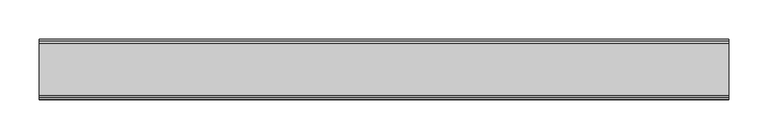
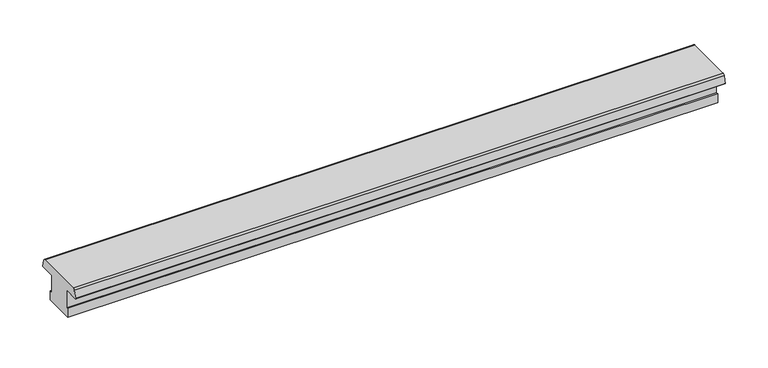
"""IFC4 building model written with IfcOpenShell, lengths in millimetres: proxy geometry, Weiku - Montante - Divisor 02.2.01.040 : Weiku - Montante - Divisor 02.2.01.040."""

from ifc_helpers import new_model, si_unit, point, frame, frame_2d, origin, place, context, project, spatial, polyline, circle_curve, trimmed, segment, composite_curve, outline, extrude, source, transform, mapped, element, save


def generic_models_a8114a35(model_context):
    return source(origin(), model_context, "Body", "SweptSolid", [
        extrude(outline(composite_curve([segment(polyline([(-33.0007245, 50.0), (33.0007245, 50.0)]), True, "CONTINUOUS"), segment(trimmed(circle_curve(frame_2d((33.0007245, 47.0)), 3.0), [point((33.0007245, 50.0))], [point((35.898502, 47.7764571))], False, "CARTESIAN"), True, "CONTINUOUS"), segment(polyline([(35.898502, 47.7764571), (38.4496907, 38.2552914)]), True, "CONTINUOUS"), segment(trimmed(circle_curve(frame_2d((37.8701352, 38.1)), 0.6), [point((38.4496907, 38.2552914))], [point((37.8701352, 37.5))], False, "CARTESIAN"), True, "CONTINUOUS"), segment(polyline([(37.8701352, 37.5), (17.5004577, 37.5), (17.5004577, 12.168694), (20.5, 12.972419), (20.5, 0.0), (-20.5, 0.0), (-20.5, 12.972419), (-17.5004577, 12.168694), (-17.5004577, 37.5), (-37.8701352, 37.5)]), True, "CONTINUOUS"), segment(trimmed(circle_curve(frame_2d((-37.8701352, 38.1)), 0.6), [point((-37.8701352, 37.5))], [point((-38.4496907, 38.2552914))], False, "CARTESIAN"), True, "CONTINUOUS"), segment(polyline([(-38.4496907, 38.2552914), (-35.898502, 47.7764571)]), True, "CONTINUOUS"), segment(trimmed(circle_curve(frame_2d((-33.0007245, 47.0)), 3.0), [point((-35.898502, 47.7764571))], [point((-33.0007245, 50.0))], False, "CARTESIAN"), True, "CONTINUOUS")], self_intersect=False)), frame((-439.1818182, 0.0, 0.0), z_axis=(1.0, 0.0, 0.0), x_axis=(0.0, 1.0, 0.0)), (0.0, 0.0, 1.0), 878.3636364),
    ])


if __name__ == "__main__":
    model = new_model("IFC4")
    model_context = context("Model", 3, world=origin())
    ifc_project = project(units=[si_unit("LENGTHUNIT", "METRE", prefix="MILLI")], contexts=[model_context])
    site = spatial("IfcSite", under=ifc_project)
    building = spatial("IfcBuilding", under=site)
    placement = place(None, origin())
    generic_models_shape = generic_models_a8114a35(model_context)
    element("IfcBuildingElementProxy", 1, Name="Weiku - Montante - Divisor 02.2.01.040 : Weiku - Montante - Divisor 02.2.01.040", ObjectType="Weiku - Montante - Divisor 02.2.01.040 : Weiku - Montante - Divisor 02.2.01.040", at=placement, inside=building, context=model_context, shape_type="MappedRepresentation", body=[
        mapped(generic_models_shape, transform((0.0, 0.0, 0.0), x_axis=(1.0, 0.0, 0.0), y_axis=(0.0, 1.0, 0.0), z_axis=(0.0, 0.0, 1.0))),
    ])
    save(model, "model.ifc")
